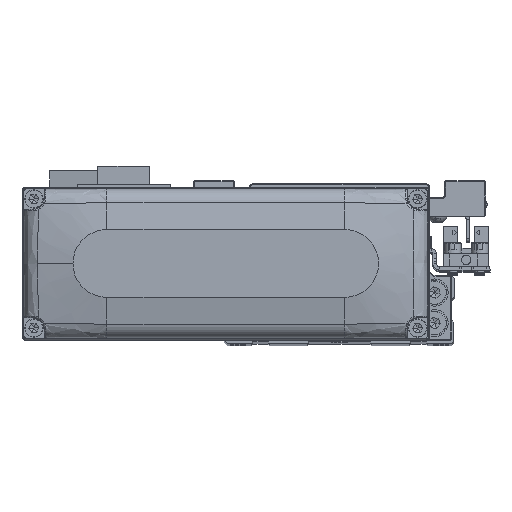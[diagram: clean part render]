
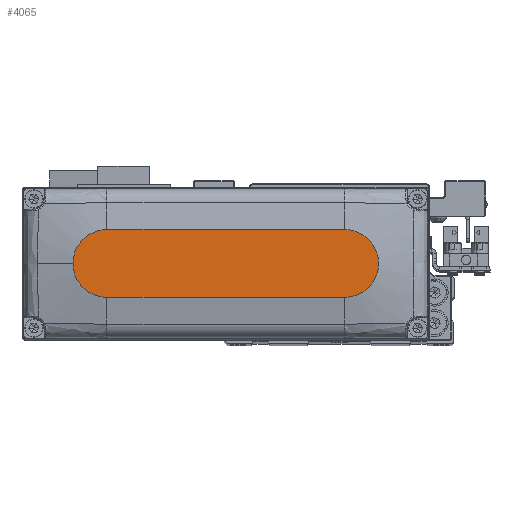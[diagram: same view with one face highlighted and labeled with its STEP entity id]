
A CAD part, top view. The second image highlights one B-rep face of the part: STEP entity #4065.
In plain terms, the highlighted planar face has unit normal (0, 0, 1).
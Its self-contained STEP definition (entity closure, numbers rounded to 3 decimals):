
#505 = VERTEX_POINT ( 'NONE', #36627 ) ;
#777 = FACE_OUTER_BOUND ( 'NONE', #21030, .T. ) ;
#958 = EDGE_CURVE ( 'NONE', #505, #21522, #6757, .T. ) ;
#3817 = EDGE_CURVE ( 'NONE', #12873, #13115, #27207, .T. ) ;
#4065 = ADVANCED_FACE ( 'NONE', ( #777 ), #12745, .T. ) ;
#4125 = LINE ( 'NONE', #16075, #16837 ) ;
#4527 = ORIENTED_EDGE ( 'NONE', *, *, #958, .T. ) ;
#4663 = ORIENTED_EDGE ( 'NONE', *, *, #3817, .T. ) ;
#5378 = DIRECTION ( 'NONE',  ( 1., 0., 0. ) ) ;
#6757 = LINE ( 'NONE', #18718, #35897 ) ;
#7702 = EDGE_CURVE ( 'NONE', #21522, #12873, #38624, .T. ) ;
#8261 = DIRECTION ( 'NONE',  ( 0., 0., 1. ) ) ;
#9501 = CARTESIAN_POINT ( 'NONE',  ( 45., 0., 28. ) ) ;
#9773 = CIRCLE ( 'NONE', #31691, 10. ) ;
#9799 = DIRECTION ( 'NONE',  ( 1., 0., 0. ) ) ;
#11820 = CARTESIAN_POINT ( 'NONE',  ( 35., -10., 28. ) ) ;
#12745 = PLANE ( 'NONE',  #15947 ) ;
#12873 = VERTEX_POINT ( 'NONE', #9501 ) ;
#13115 = VERTEX_POINT ( 'NONE', #18004 ) ;
#14538 = CARTESIAN_POINT ( 'NONE',  ( -35., 10., 28. ) ) ;
#14755 = CARTESIAN_POINT ( 'NONE',  ( 35., 0., 28. ) ) ;
#15947 = AXIS2_PLACEMENT_3D ( 'NONE', #24709, #36678, #9799 ) ;
#16075 = CARTESIAN_POINT ( 'NONE',  ( -35., 10., 28. ) ) ;
#16837 = VECTOR ( 'NONE', #28052, 1000. ) ;
#18004 = CARTESIAN_POINT ( 'NONE',  ( 35., 10., 28. ) ) ;
#18188 = ORIENTED_EDGE ( 'NONE', *, *, #26392, .T. ) ;
#18718 = CARTESIAN_POINT ( 'NONE',  ( -35., -10., 28. ) ) ;
#20011 = VERTEX_POINT ( 'NONE', #14538 ) ;
#20208 = DIRECTION ( 'NONE',  ( 1., 0., 0. ) ) ;
#20280 = CARTESIAN_POINT ( 'NONE',  ( -35., 0., 28. ) ) ;
#21030 = EDGE_LOOP ( 'NONE', ( #30429, #18188, #4527, #30608, #4663 ) ) ;
#21522 = VERTEX_POINT ( 'NONE', #11820 ) ;
#21733 = AXIS2_PLACEMENT_3D ( 'NONE', #14755, #26722, #38699 ) ;
#22110 = EDGE_CURVE ( 'NONE', #13115, #20011, #4125, .T. ) ;
#24709 = CARTESIAN_POINT ( 'NONE',  ( 0., 0., 28. ) ) ;
#26392 = EDGE_CURVE ( 'NONE', #20011, #505, #9773, .T. ) ;
#26722 = DIRECTION ( 'NONE',  ( 0., 0., 1. ) ) ;
#27207 = CIRCLE ( 'NONE', #32214, 10. ) ;
#28052 = DIRECTION ( 'NONE',  ( -1., 0., 0. ) ) ;
#30429 = ORIENTED_EDGE ( 'NONE', *, *, #22110, .T. ) ;
#30608 = ORIENTED_EDGE ( 'NONE', *, *, #7702, .T. ) ;
#30695 = DIRECTION ( 'NONE',  ( 1., 0., 0. ) ) ;
#31691 = AXIS2_PLACEMENT_3D ( 'NONE', #20280, #32256, #5378 ) ;
#32214 = AXIS2_PLACEMENT_3D ( 'NONE', #35132, #8261, #20208 ) ;
#32256 = DIRECTION ( 'NONE',  ( 0., 0., 1. ) ) ;
#35132 = CARTESIAN_POINT ( 'NONE',  ( 35., 0., 28. ) ) ;
#35897 = VECTOR ( 'NONE', #30695, 1000. ) ;
#36627 = CARTESIAN_POINT ( 'NONE',  ( -35., -10., 28. ) ) ;
#36678 = DIRECTION ( 'NONE',  ( 0., 0., 1. ) ) ;
#38624 = CIRCLE ( 'NONE', #21733, 10. ) ;
#38699 = DIRECTION ( 'NONE',  ( 1., 0., 0. ) ) ;
